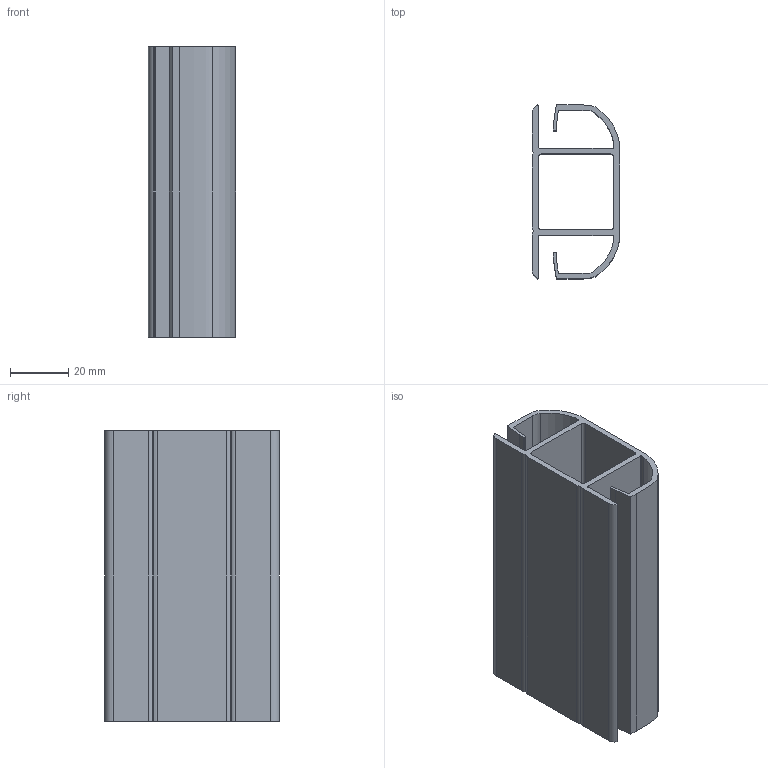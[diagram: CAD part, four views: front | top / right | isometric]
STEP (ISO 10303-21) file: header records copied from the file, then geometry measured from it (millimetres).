
FILE_DESCRIPTION (( 'STEP AP203' ), '1' );
FILE_NAME ('013.030.005.STEP', '2020-09-18T14:20:03', ( '' ), ( '' ), 'SwSTEP 2.0', 'SolidWorks 2018', '' );
FILE_SCHEMA (( 'CONFIG_CONTROL_DESIGN' ));
Length unit declared in the file: millimetre
Products named in the file (1): 013.030.005
Bounding box: 30 x 60 x 100 mm (x, y, z)
Volume: 40559.9 mm3; surface area: 43274.9 mm2
Topology: 1 solids, 1 shells, 60 faces, 174 edges, 116 vertices
Faces by surface type: plane 30, cylinder 26, bspline 4
Entity records: 2119 total; most frequent: CARTESIAN_POINT 427, ORIENTED_EDGE 348, DIRECTION 332, EDGE_CURVE 174, VERTEX_POINT 116, LINE 114, VECTOR 114, AXIS2_PLACEMENT_3D 109
